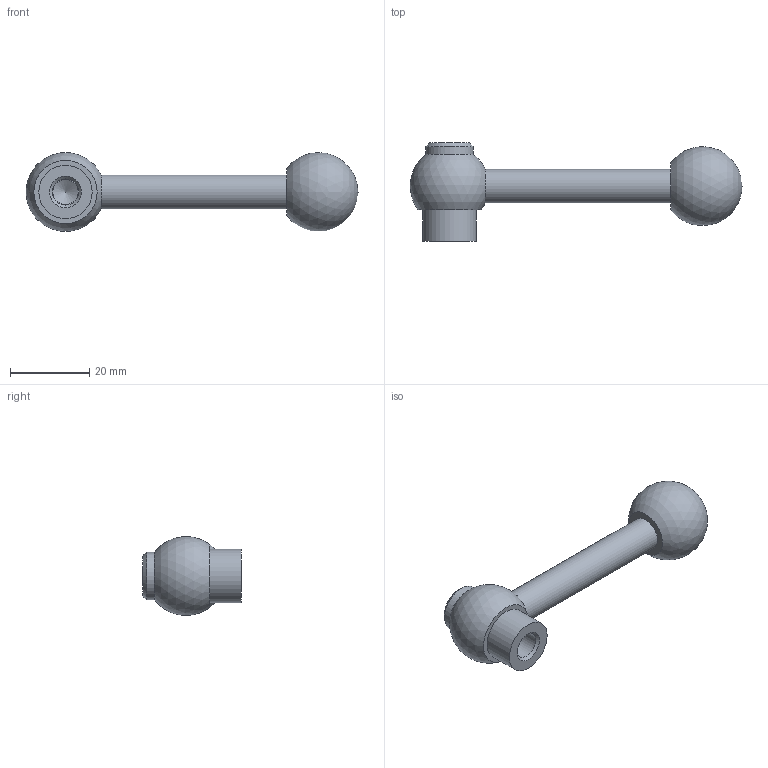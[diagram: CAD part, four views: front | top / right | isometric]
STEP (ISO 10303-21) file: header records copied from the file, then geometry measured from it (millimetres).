
FILE_DESCRIPTION( ( 'STEP AP203' ), '1' );
FILE_NAME( 'C:/Temp/Ganter_Step_05_03_2020/data/2_1/gn_6337_3/gn_6337_3_mb/gn_6337_3_mb_m/Adjustable clamping lever GN 6337.3-20-M8-M.stp', '2020-03-05T11:41:09', ( 'License CC BY-ND 4.0' ), ( 'CADENAS' ), ' ', 'PARTsolutions', ' ' );
FILE_SCHEMA( ( 'CONFIG_CONTROL_DESIGN' ) );
Length unit declared in the file: millimetre
Products named in the file (1): _Adjustable clamping lever GN 6337.3-20-M8-M
Bounding box: 84 x 25 x 19.85 mm (x, y, z)
Volume: 11330.8 mm3; surface area: 4276.3 mm2
Topology: 1 solids, 1 shells, 15 faces, 31 edges, 20 vertices
Faces by surface type: cylinder 5, plane 5, cone 3, sphere 2
Full cylindrical faces by diameter (mm): 6.4 x1, 6.647 x1, 8.5 x1, 12 x1, 13.5 x1
Entity records: 346 total; most frequent: DIRECTION 60, CARTESIAN_POINT 46, AXIS2_PLACEMENT_3D 30, EDGE_LOOP 28, ORIENTED_EDGE 28, FACE_OUTER_BOUND 21, VERTEX_POINT 16, ADVANCED_FACE 15
